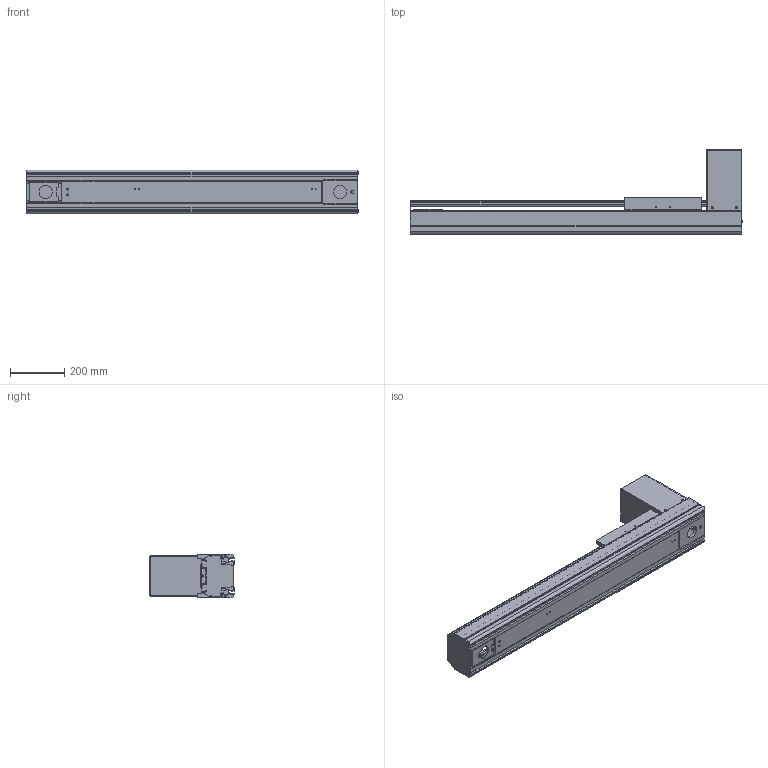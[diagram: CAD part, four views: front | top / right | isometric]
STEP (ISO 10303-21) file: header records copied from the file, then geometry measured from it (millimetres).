
FILE_DESCRIPTION((''),'2;1');
FILE_NAME('BE50G-BT-L19N-65_IGS_PRT','2017-06-18T',(' '),(''),'PRO/ENGINEER BY PARAMETRIC TECHNOLOGY CORPORATION, 2015030','PRO/ENGINEER BY PARAMETRIC TECHNOLOGY CORPORATION, 2015030','');
FILE_SCHEMA(('CONFIG_CONTROL_DESIGN'));
Length unit declared in the file: millimetre
Products named in the file (1): BE50G-BT-L19N-65_IGS_PRT
Bounding box: 1220 x 309 x 160 mm (x, y, z)
Volume: 6602868.8 mm3; surface area: 2446265.6 mm2
Topology: 2 solids, 133 shells, 1834 faces, 5047 edges, 3322 vertices
Faces by surface type: cylinder 891, plane 778, cone 122, sphere 23, torus 20
Entity records: 60401 total; most frequent: CARTESIAN_POINT 12990, DIRECTION 10041, ORIENTED_EDGE 9474, EDGE_CURVE 4971, AXIS2_PLACEMENT_3D 3728, VERTEX_POINT 3321, VECTOR 2585, LINE 2585
